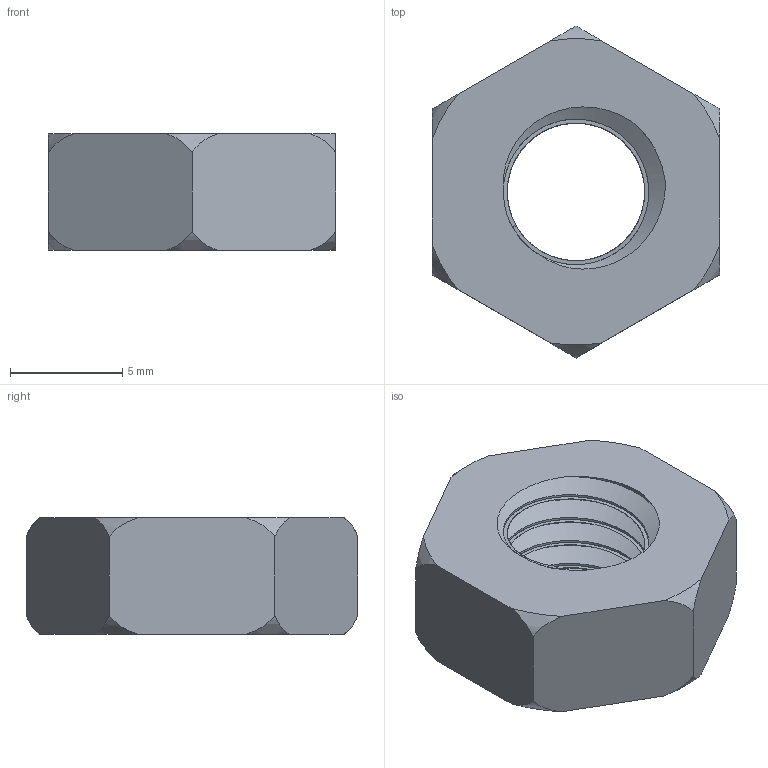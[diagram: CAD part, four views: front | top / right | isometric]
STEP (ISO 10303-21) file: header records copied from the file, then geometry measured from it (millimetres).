
FILE_DESCRIPTION ((), '1');
FILE_NAME ('H:\Energy Science\CAD Projects\Generator Research\Tesla_v1\Fittings\M8 Fittings\M8 Nut\M8 Nut.stp', '2015-10-15T23:12:55', ('Unknown'), ('Unknown'), 'HarmonyWare STEP v1.7.11', 'HarmonyWare Translators', '');
FILE_SCHEMA (('CONFIG_CONTROL_DESIGN'));
Length unit declared in the file: millimetre
Products named in the file (1): product-name
Bounding box: 12.79 x 14.77 x 5.2 mm (x, y, z)
Volume: 522 mm3; surface area: 655.9 mm2
Topology: 1 solids, 1 shells, 32 faces, 90 edges, 60 vertices
Faces by surface type: bspline 32
Entity records: 10119 total; most frequent: CARTESIAN_POINT 9489, ORIENTED_EDGE 180, EDGE_CURVE 90, B_SPLINE_CURVE_WITH_KNOTS 84, VERTEX_POINT 60, EDGE_LOOP 34, FACE_OUTER_BOUND 32, ADVANCED_FACE 32
